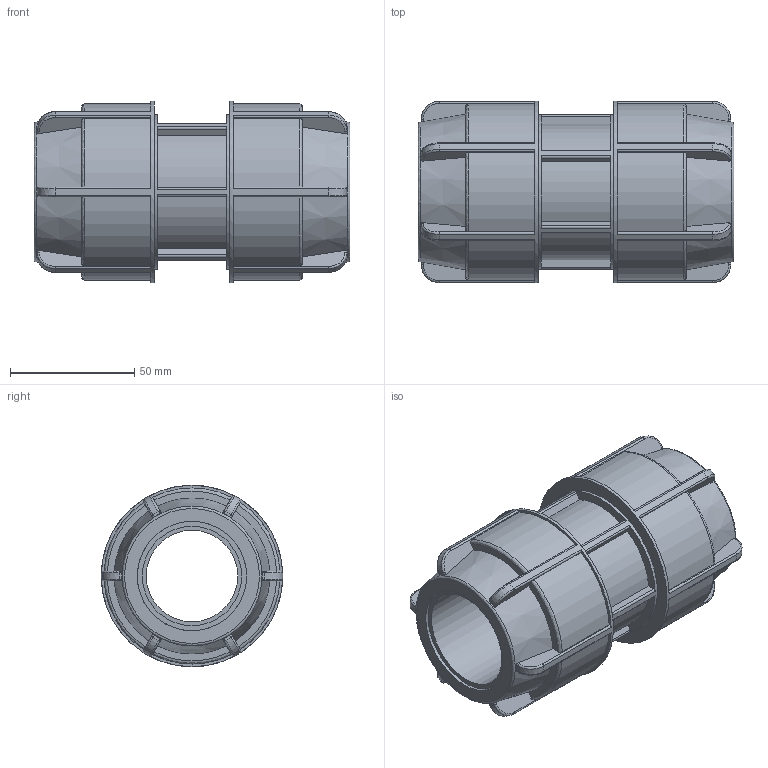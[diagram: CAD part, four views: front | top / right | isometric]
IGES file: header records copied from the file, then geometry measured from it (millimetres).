
Global section: file name: 140100040.ipt; native system: Autodesk Inventor 2015; preprocessor: unknown; author: KIM; date: 20180612.155250; units: millimetre
Bounding box: 127 x 72.99 x 73 mm (x, y, z)
Volume: 258547.7 mm3; surface area: 53778.6 mm2
Topology: 1 solids, 1 shells, 230 faces, 609 edges, 392 vertices
Faces by surface type: plane 92, cylinder 81, revolution 31, bspline 24, cone 2
Full cylindrical faces by diameter (mm): 62.05 x1, 73 x2
